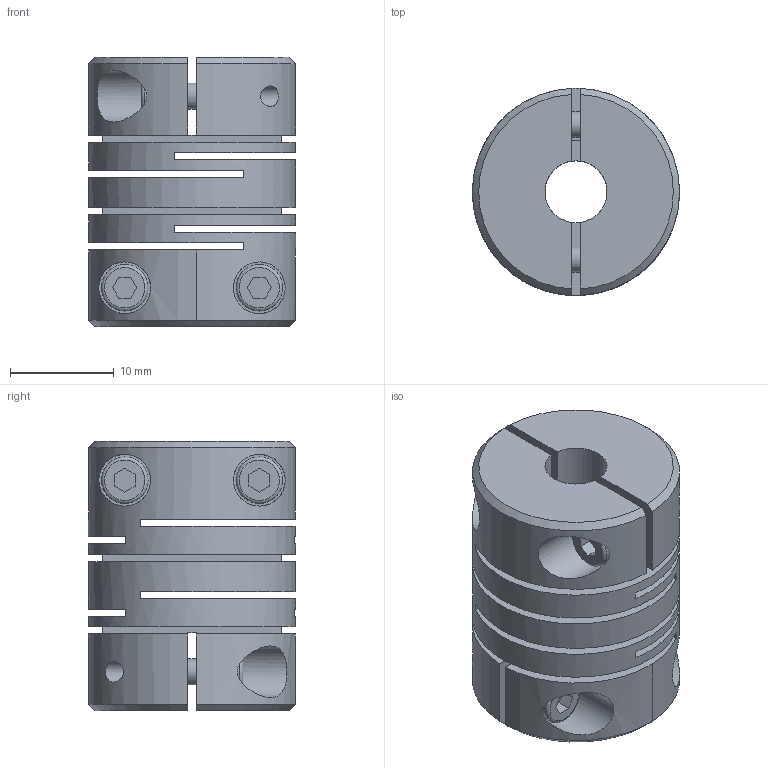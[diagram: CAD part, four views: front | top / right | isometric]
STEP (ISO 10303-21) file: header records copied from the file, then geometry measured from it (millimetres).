
FILE_DESCRIPTION (( 'STEP AP214' ), '1' );
FILE_NAME ('2246-20-B6-8-NI.step', '2022-05-27T09:30:53', ( '' ), ( '' ), 'SwSTEP 2.0', 'SolidWorks 2019', '' );
FILE_SCHEMA (( 'AUTOMOTIVE_DESIGN' ));
Length unit declared in the file: millimetre
Products named in the file (1): 2246-20-B6-8-NI
Bounding box: 20 x 20 x 26 mm (x, y, z)
Volume: 5803.5 mm3; surface area: 6016.3 mm2
Topology: 1 solids, 1 shells, 123 faces, 308 edges, 208 vertices
Faces by surface type: plane 79, cylinder 32, cone 8, torus 4
Full cylindrical faces by diameter (mm): 2.01 x4, 2.5 x4, 2.7 x4, 4.5 x4, 5 x4, 6 x3, 8 x3, 20 x1
Entity records: 4264 total; most frequent: CARTESIAN_POINT 939, DIRECTION 552, ORIENTED_EDGE 476, EDGE_CURVE 238, AXIS2_PLACEMENT_3D 207, EDGE_LOOP 200, VERTEX_POINT 178, FACE_OUTER_BOUND 153
